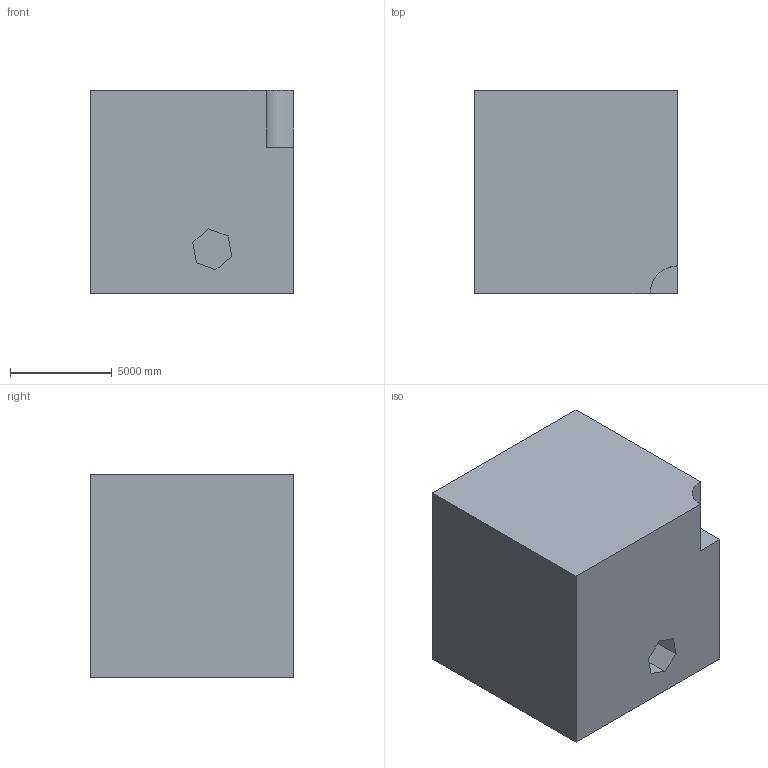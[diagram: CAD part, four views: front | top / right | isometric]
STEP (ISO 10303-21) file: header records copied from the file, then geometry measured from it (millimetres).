
FILE_DESCRIPTION (( 'STEP AP203' ), '1' );
FILE_NAME ('118.STEP', '2022-09-06T15:07:37', ( 'user' ), ( '' ), 'SwSTEP 2.0', 'SolidWorks 2021', '' );
FILE_SCHEMA (( 'CONFIG_CONTROL_DESIGN' ));
Length unit declared in the file: centimetre
Products named in the file (1): 118
Bounding box: 10000 x 10000 x 10000 mm (x, y, z)
Volume: 979927797154.5 mm3; surface area: 634646949.5 mm2
Topology: 1 solids, 1 shells, 15 faces, 36 edges, 24 vertices
Faces by surface type: plane 14, cylinder 1
Entity records: 509 total; most frequent: CARTESIAN_POINT 76, ORIENTED_EDGE 72, DIRECTION 70, EDGE_CURVE 36, VECTOR 34, LINE 34, VERTEX_POINT 24, AXIS2_PLACEMENT_3D 18
